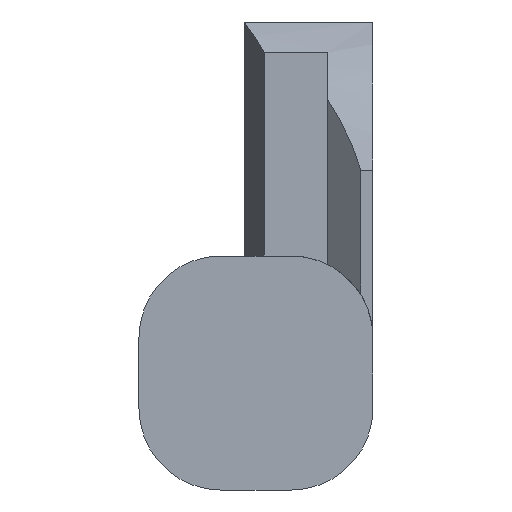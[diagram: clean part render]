
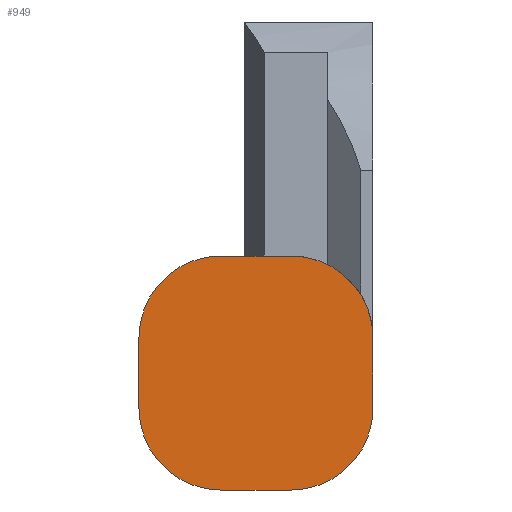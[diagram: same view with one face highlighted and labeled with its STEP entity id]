
A CAD part, left-side view. The second image highlights one B-rep face of the part: STEP entity #949.
In plain terms, the highlighted planar face has unit normal (-1, 0, 0).
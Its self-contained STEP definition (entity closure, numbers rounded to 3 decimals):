
#77 = DIRECTION ( 'NONE',  ( 0., -1., 0. ) ) ;
#78 = VECTOR ( 'NONE', #77, 1000. ) ;
#79 = CARTESIAN_POINT ( 'NONE',  ( -11., 5., 0. ) ) ;
#80 = LINE ( 'NONE', #79, #78 ) ;
#81 = CARTESIAN_POINT ( 'NONE',  ( -11., 1.5, 0. ) ) ;
#571 = LINE ( 'NONE', #607, #688 ) ;
#573 = CARTESIAN_POINT ( 'NONE',  ( -11., 1.5, -10. ) ) ;
#574 = DIRECTION ( 'NONE',  ( 0., 0., -1. ) ) ;
#575 = DIRECTION ( 'NONE',  ( -1., 0., 0. ) ) ;
#576 = CARTESIAN_POINT ( 'NONE',  ( -11., 1.5, -6.5 ) ) ;
#577 = AXIS2_PLACEMENT_3D ( 'NONE', #576, #575, #574 ) ;
#578 = CIRCLE ( 'NONE', #577, 3.5 ) ;
#579 = CARTESIAN_POINT ( 'NONE',  ( -11., 5., -6.5 ) ) ;
#580 = DIRECTION ( 'NONE',  ( 0., 0., 1. ) ) ;
#581 = VECTOR ( 'NONE', #580, 1000. ) ;
#582 = CARTESIAN_POINT ( 'NONE',  ( -11., 5., 0. ) ) ;
#583 = LINE ( 'NONE', #582, #581 ) ;
#597 = CARTESIAN_POINT ( 'NONE',  ( -11., -1.5, 0. ) ) ;
#605 = PLANE ( 'NONE',  #637 ) ;
#606 = FACE_OUTER_BOUND ( 'NONE', #978, .T. ) ;
#607 = CARTESIAN_POINT ( 'NONE',  ( -11., 5., -10. ) ) ;
#634 = DIRECTION ( 'NONE',  ( 0., 0., -1. ) ) ;
#635 = DIRECTION ( 'NONE',  ( 1., 0., 0. ) ) ;
#636 = CARTESIAN_POINT ( 'NONE',  ( -11., 5., 0. ) ) ;
#637 = AXIS2_PLACEMENT_3D ( 'NONE', #636, #635, #634 ) ;
#641 = CARTESIAN_POINT ( 'NONE',  ( -11., -5., -6.5 ) ) ;
#642 = DIRECTION ( 'NONE',  ( 0., 0., 1. ) ) ;
#643 = VECTOR ( 'NONE', #642, 1000. ) ;
#644 = CARTESIAN_POINT ( 'NONE',  ( -11., -5., 0. ) ) ;
#645 = LINE ( 'NONE', #644, #643 ) ;
#646 = CARTESIAN_POINT ( 'NONE',  ( -11., 1.5, -3.5 ) ) ;
#647 = CARTESIAN_POINT ( 'NONE',  ( -11., -5., -3.5 ) ) ;
#651 = DIRECTION ( 'NONE',  ( 0., 0., -1. ) ) ;
#652 = DIRECTION ( 'NONE',  ( -1., 0., 0. ) ) ;
#653 = CARTESIAN_POINT ( 'NONE',  ( -11., -1.5, -3.5 ) ) ;
#654 = AXIS2_PLACEMENT_3D ( 'NONE', #653, #652, #651 ) ;
#655 = CIRCLE ( 'NONE', #654, 3.5 ) ;
#656 = DIRECTION ( 'NONE',  ( 0., 0., -1. ) ) ;
#657 = DIRECTION ( 'NONE',  ( -1., 0., 0. ) ) ;
#658 = AXIS2_PLACEMENT_3D ( 'NONE', #646, #657, #656 ) ;
#659 = CIRCLE ( 'NONE', #658, 3.5 ) ;
#662 = CARTESIAN_POINT ( 'NONE',  ( -11., 5., -3.5 ) ) ;
#663 = CARTESIAN_POINT ( 'NONE',  ( -11., -1.5, -10. ) ) ;
#669 = DIRECTION ( 'NONE',  ( 0., 0., -1. ) ) ;
#670 = DIRECTION ( 'NONE',  ( -1., 0., 0. ) ) ;
#671 = CIRCLE ( 'NONE', #690, 3.5 ) ;
#683 = DIRECTION ( 'NONE',  ( 0., -1., 0. ) ) ;
#688 = VECTOR ( 'NONE', #683, 1000. ) ;
#689 = CARTESIAN_POINT ( 'NONE',  ( -11., -1.5, -6.5 ) ) ;
#690 = AXIS2_PLACEMENT_3D ( 'NONE', #689, #670, #669 ) ;
#920 = VERTEX_POINT ( 'NONE', #597 ) ;
#934 = EDGE_CURVE ( 'NONE', #935, #962, #583, .T. ) ;
#935 = VERTEX_POINT ( 'NONE', #579 ) ;
#936 = ORIENTED_EDGE ( 'NONE', *, *, #937, .T. ) ;
#937 = EDGE_CURVE ( 'NONE', #935, #938, #578, .T. ) ;
#938 = VERTEX_POINT ( 'NONE', #573 ) ;
#939 = ORIENTED_EDGE ( 'NONE', *, *, #940, .T. ) ;
#940 = EDGE_CURVE ( 'NONE', #938, #941, #571, .T. ) ;
#941 = VERTEX_POINT ( 'NONE', #663 ) ;
#942 = ORIENTED_EDGE ( 'NONE', *, *, #943, .T. ) ;
#943 = EDGE_CURVE ( 'NONE', #941, #955, #671, .T. ) ;
#949 = ADVANCED_FACE ( 'NONE', ( #606 ), #605, .F. ) ;
#950 = ORIENTED_EDGE ( 'NONE', *, *, #954, .T. ) ;
#954 = EDGE_CURVE ( 'NONE', #955, #956, #645, .T. ) ;
#955 = VERTEX_POINT ( 'NONE', #641 ) ;
#956 = VERTEX_POINT ( 'NONE', #647 ) ;
#957 = ORIENTED_EDGE ( 'NONE', *, *, #958, .T. ) ;
#958 = EDGE_CURVE ( 'NONE', #956, #920, #655, .T. ) ;
#959 = ORIENTED_EDGE ( 'NONE', *, *, #1104, .F. ) ;
#960 = ORIENTED_EDGE ( 'NONE', *, *, #961, .T. ) ;
#961 = EDGE_CURVE ( 'NONE', #1102, #962, #659, .T. ) ;
#962 = VERTEX_POINT ( 'NONE', #662 ) ;
#963 = ORIENTED_EDGE ( 'NONE', *, *, #934, .F. ) ;
#978 = EDGE_LOOP ( 'NONE', ( #950, #957, #959, #960, #963, #936, #939, #942 ) ) ;
#1102 = VERTEX_POINT ( 'NONE', #81 ) ;
#1104 = EDGE_CURVE ( 'NONE', #1102, #920, #80, .T. ) ;
